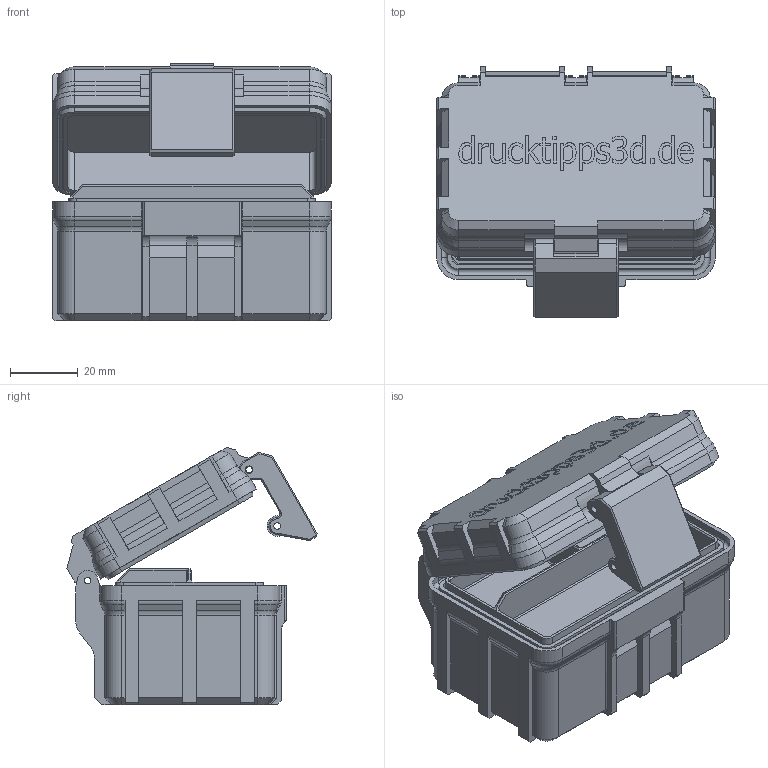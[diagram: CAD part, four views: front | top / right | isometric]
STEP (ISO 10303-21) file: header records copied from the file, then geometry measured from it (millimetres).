
FILE_DESCRIPTION(/* description */ (''),/* implementation_level */ '2;1');
FILE_NAME(/* name */ 'C:\Users\User\Desktop\DT3D Box MINI.stp',/* time_stamp */ '2025-02-20T11:18:00+01:00',/* author */ ('Uwe'),/* organization */ (''),/* preprocessor_version */ 'ST-DEVELOPER v18.1',/* originating_system */ 'Autodesk Inventor 2021',/* authorisation */ '');
FILE_SCHEMA (('CONFIG_CONTROL_DESIGN'));
Length unit declared in the file: millimetre
Products named in the file (7): Allround Box MINI v1; Lid; Lockpieces; Wheels; Latch; Bauteil8; Inset
Assembly tree (7 placements, depth 3):
  Allround Box MINI v1
    Lid
    Lockpieces
      Wheels  x2
      Latch
    Bauteil8
    Inset
Bounding box: 82 x 73.67 x 75.69 mm (x, y, z)
Volume: 80897.4 mm3; surface area: 59683.3 mm2
Topology: 6 solids, 6 shells, 939 faces, 2469 edges, 1570 vertices
Faces by surface type: plane 542, cylinder 196, bspline 129, cone 48, torus 24
Full cylindrical faces by diameter (mm): 1.9 x4, 2 x6, 2.05 x2, 2.2 x2, 6 x2
Entity records: 29922 total; most frequent: CARTESIAN_POINT 7034, ORIENTED_EDGE 4926, DIRECTION 4315, EDGE_CURVE 2463, LINE 1743, VECTOR 1743, VERTEX_POINT 1566, AXIS2_PLACEMENT_3D 1286
